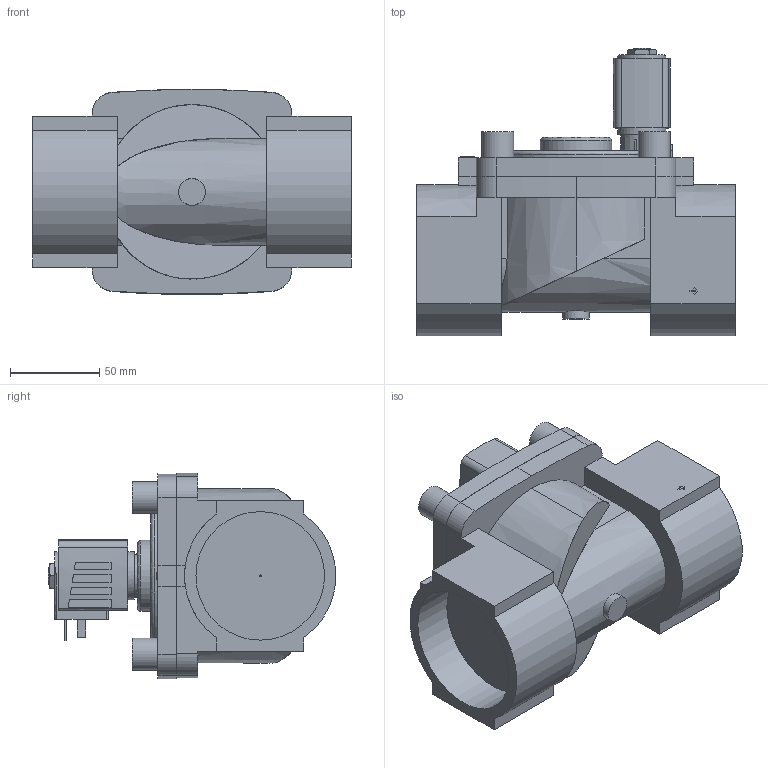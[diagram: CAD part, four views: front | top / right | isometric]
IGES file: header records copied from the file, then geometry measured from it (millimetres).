
Start section: Data from Parasolid IGES Translator 26.0.171, Copyright(c) 2006 Siemens PLM Software. All Rights Reserved.
Global section: file name: 6281-269454-2_2-Way_Solenoid_Valve__Servo-assisted__General_Purpose.igs; native system: By Siemens PLM Incorporated; preprocessor: XPlus GENERIC/IGES 26.0.171; author: Noname; organization: Noname; date: 20240909.105227; units: millimetre
Bounding box: 179 x 161.34 x 115.15 mm (x, y, z)
Surface area: 139619.1 mm2 (no closed solid volume)
Topology: 0 solids, 0 shells, 249 faces, 1286 edges, 1261 vertices
Faces by surface type: extrusion 171, revolution 78
